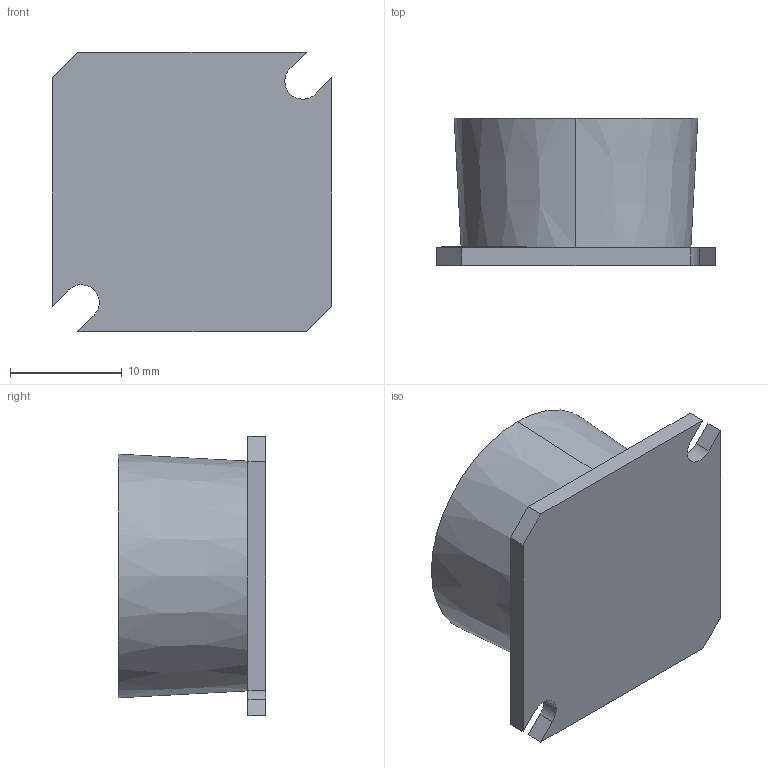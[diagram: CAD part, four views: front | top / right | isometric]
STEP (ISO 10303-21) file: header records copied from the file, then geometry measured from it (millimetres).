
FILE_DESCRIPTION (( 'STEP AP214' ), '1' );
FILE_NAME ('SP-12.STEP', '2014-07-30T16:18:10', ( 'MainServer' ), ( '' ), 'SwSTEP 2.0', 'SolidWorks 2014', '' );
FILE_SCHEMA (( 'AUTOMOTIVE_DESIGN' ));
Length unit declared in the file: inch
Products named in the file (5): Lens; Lens Holder; Luxeon Rebel ES; SP-12 Base; SP-12
Assembly tree (4 placements, depth 2):
  SP-12
    SP-12 Base
    Luxeon Rebel ES
    Lens Holder
    Lens
Bounding box: 25 x 13.2 x 25 mm (x, y, z)
Volume: 3731.7 mm3; surface area: 4413.1 mm2
Topology: 4 solids, 4 shells, 396 faces, 1024 edges, 670 vertices
Faces by surface type: plane 244, bspline 87, cylinder 39, torus 14, sphere 6, cone 6
Entity records: 21430 total; most frequent: CARTESIAN_POINT 7162, ORIENTED_EDGE 2036, DIRECTION 1594, EDGE_CURVE 1018, LINE 726, VECTOR 726, VERTEX_POINT 670, EDGE_LOOP 438
